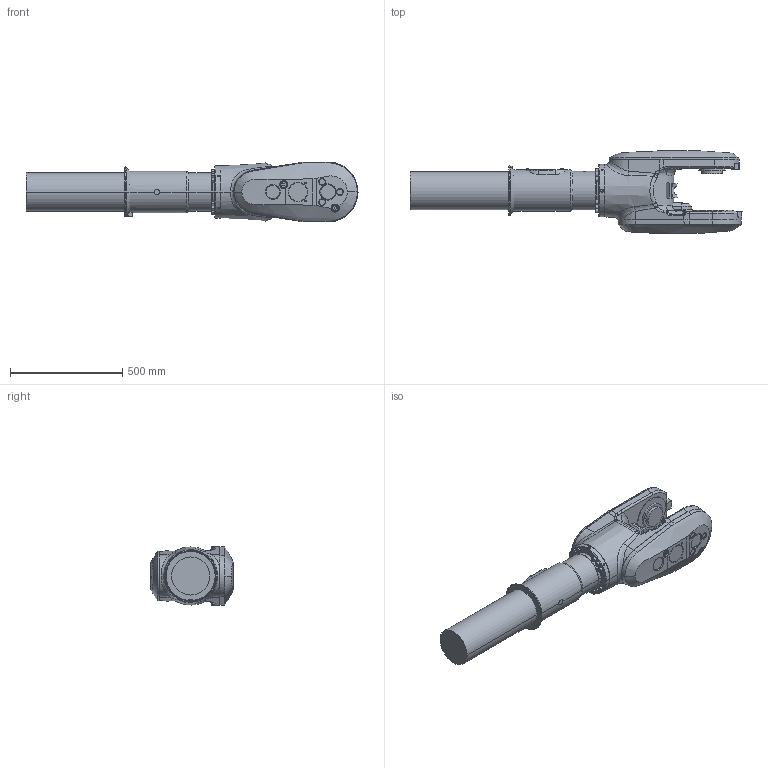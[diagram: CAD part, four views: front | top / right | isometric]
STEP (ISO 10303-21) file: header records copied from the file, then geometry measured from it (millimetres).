
FILE_DESCRIPTION (( 'STEP AP214' ), '1' );
FILE_NAME ('IRB6710_210kg-265_OC_00_LINK04_CAD.STEP', '2023-03-27T18:08:18', ( '' ), ( '' ), 'SwSTEP 2.0', 'SolidWorks 2020', '' );
FILE_SCHEMA (( 'AUTOMOTIVE_DESIGN' ));
Length unit declared in the file: millimetre
Products named in the file (1): IRB6710_210kg-265_OC_00_LINK04_CAD
Bounding box: 1478.63 x 368.88 x 267.05 mm (x, y, z)
Volume: 52603783.3 mm3; surface area: 1313105.2 mm2
Topology: 1 solids, 1 shells, 700 faces, 1707 edges, 1064 vertices
Faces by surface type: plane 294, cylinder 182, cone 141, bspline 65, torus 14, sphere 4
Entity records: 37760 total; most frequent: CARTESIAN_POINT 14583, ORIENTED_EDGE 3374, DIRECTION 2987, EDGE_CURVE 1687, AXIS2_PLACEMENT_3D 1092, VERTEX_POINT 1064, LINE 803, VECTOR 803
